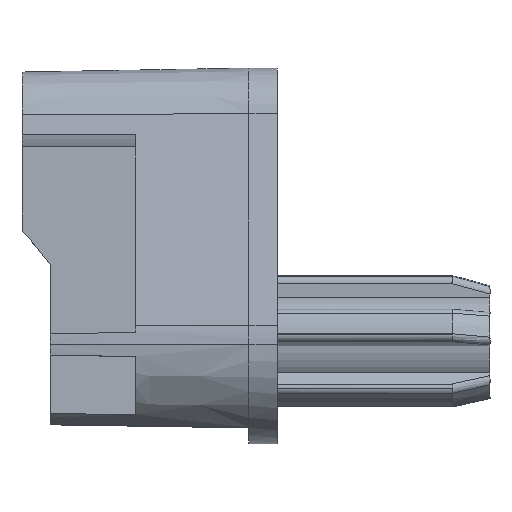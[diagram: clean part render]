
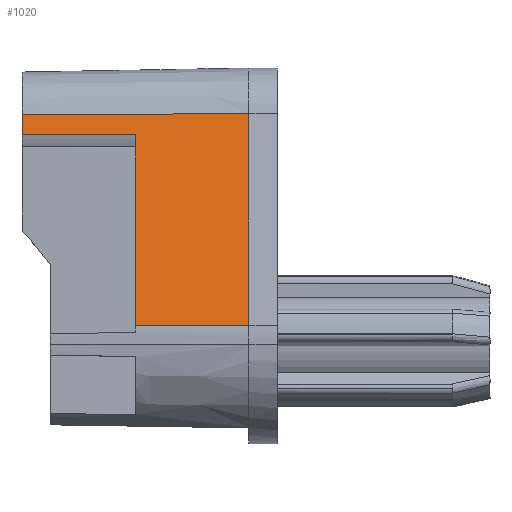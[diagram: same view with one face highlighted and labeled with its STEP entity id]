
A CAD part, top view. The second image highlights one B-rep face of the part: STEP entity #1020.
In plain terms, the highlighted planar face has unit normal (-0.018, 0.194, 0.981).
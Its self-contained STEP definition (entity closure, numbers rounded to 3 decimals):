
#56 = ORIENTED_EDGE ( 'NONE', *, *, #1654, .F. ) ;
#102 = ORIENTED_EDGE ( 'NONE', *, *, #1670, .F. ) ;
#152 = LINE ( 'NONE', #3135, #538 ) ;
#208 = LINE ( 'NONE', #3327, #210 ) ;
#210 = VECTOR ( 'NONE', #3458, 1000. ) ;
#211 = EDGE_LOOP ( 'NONE', ( #102, #707, #343, #537, #56, #647 ) ) ;
#343 = ORIENTED_EDGE ( 'NONE', *, *, #1707, .T. ) ;
#372 = FACE_OUTER_BOUND ( 'NONE', #211, .T. ) ;
#537 = ORIENTED_EDGE ( 'NONE', *, *, #1579, .F. ) ;
#538 = VECTOR ( 'NONE', #3105, 1000. ) ;
#647 = ORIENTED_EDGE ( 'NONE', *, *, #1661, .T. ) ;
#707 = ORIENTED_EDGE ( 'NONE', *, *, #1709, .F. ) ;
#782 = LINE ( 'NONE', #3284, #783 ) ;
#783 = VECTOR ( 'NONE', #3305, 1000. ) ;
#789 = LINE ( 'NONE', #3420, #791 ) ;
#791 = VECTOR ( 'NONE', #3432, 1000. ) ;
#845 = LINE ( 'NONE', #3197, #846 ) ;
#846 = VECTOR ( 'NONE', #3184, 1000. ) ;
#1000 = B_SPLINE_CURVE_WITH_KNOTS ( 'NONE', 3,
 ( #3196, #3218, #3477, #3454 ),
 .UNSPECIFIED., .F., .F.,
 ( 4, 4 ),
 ( 711.042, 711.05 ),
 .UNSPECIFIED. ) ;
#1020 = ADVANCED_FACE ( 'NONE', ( #372 ), #2199, .T. ) ;
#1049 = VERTEX_POINT ( 'NONE', #2279 ) ;
#1131 = VERTEX_POINT ( 'NONE', #2377 ) ;
#1366 = CARTESIAN_POINT ( 'NONE',  ( 16., 1.355, 6.868 ) ) ;
#1383 = CARTESIAN_POINT ( 'NONE',  ( 0., 16.22, 3.65 ) ) ;
#1423 = CARTESIAN_POINT ( 'NONE',  ( 0., 14.779, 3.935 ) ) ;
#1442 = CARTESIAN_POINT ( 'NONE',  ( 8., 1.328, 6.731 ) ) ;
#1579 = EDGE_CURVE ( 'NONE', #2291, #2907, #152, .T. ) ;
#1654 = EDGE_CURVE ( 'NONE', #1131, #2291, #782, .T. ) ;
#1661 = EDGE_CURVE ( 'NONE', #1131, #2449, #789, .T. ) ;
#1670 = EDGE_CURVE ( 'NONE', #2817, #2449, #208, .T. ) ;
#1707 = EDGE_CURVE ( 'NONE', #1049, #2907, #845, .T. ) ;
#1709 = EDGE_CURVE ( 'NONE', #1049, #2817, #1000, .T. ) ;
#1884 = AXIS2_PLACEMENT_3D ( 'NONE', #2773, #2793, #2730 ) ;
#2199 = PLANE ( 'NONE',  #1884 ) ;
#2279 = CARTESIAN_POINT ( 'NONE',  ( 8., 14.781, 4.077 ) ) ;
#2291 = VERTEX_POINT ( 'NONE', #1366 ) ;
#2377 = CARTESIAN_POINT ( 'NONE',  ( 16., 16.274, 3.924 ) ) ;
#2449 = VERTEX_POINT ( 'NONE', #1383 ) ;
#2730 = DIRECTION ( 'NONE',  ( 0., -0.981, 0.194 ) ) ;
#2773 = CARTESIAN_POINT ( 'NONE',  ( 16., 1.836, 6.773 ) ) ;
#2793 = DIRECTION ( 'NONE',  ( -0.017, 0.194, 0.981 ) ) ;
#2817 = VERTEX_POINT ( 'NONE', #1423 ) ;
#2907 = VERTEX_POINT ( 'NONE', #1442 ) ;
#3105 = DIRECTION ( 'NONE',  ( -1., -0.003, -0.017 ) ) ;
#3135 = CARTESIAN_POINT ( 'NONE',  ( 16., 1.355, 6.868 ) ) ;
#3184 = DIRECTION ( 'NONE',  ( 0., -0.981, 0.194 ) ) ;
#3196 = CARTESIAN_POINT ( 'NONE',  ( 8., 14.781, 4.077 ) ) ;
#3197 = CARTESIAN_POINT ( 'NONE',  ( 8., 1.809, 6.636 ) ) ;
#3218 = CARTESIAN_POINT ( 'NONE',  ( 5.333, 14.78, 4.029 ) ) ;
#3284 = CARTESIAN_POINT ( 'NONE',  ( 16., 16.274, 3.924 ) ) ;
#3305 = DIRECTION ( 'NONE',  ( 0., -0.981, 0.194 ) ) ;
#3327 = CARTESIAN_POINT ( 'NONE',  ( 0., 16.22, 3.65 ) ) ;
#3420 = CARTESIAN_POINT ( 'NONE',  ( 16., 16.274, 3.924 ) ) ;
#3432 = DIRECTION ( 'NONE',  ( -1., -0.003, -0.017 ) ) ;
#3454 = CARTESIAN_POINT ( 'NONE',  ( 0., 14.779, 3.935 ) ) ;
#3458 = DIRECTION ( 'NONE',  ( 0., 0.981, -0.194 ) ) ;
#3477 = CARTESIAN_POINT ( 'NONE',  ( 2.667, 14.78, 3.982 ) ) ;
